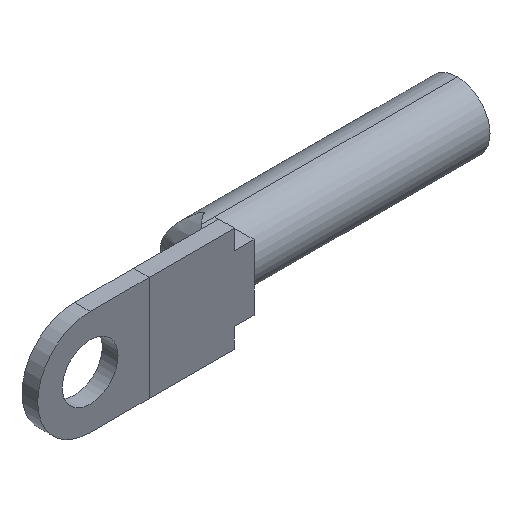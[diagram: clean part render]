
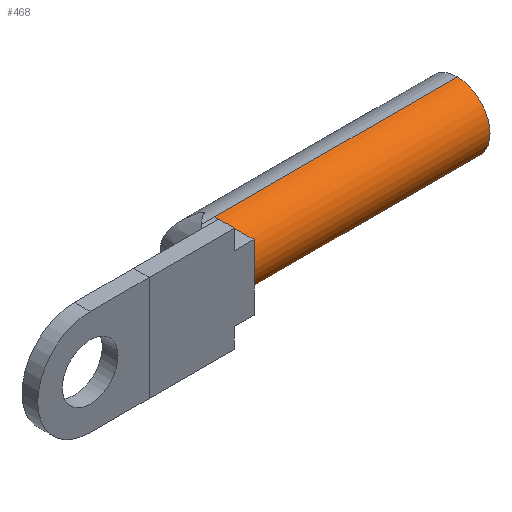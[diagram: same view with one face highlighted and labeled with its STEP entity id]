
A CAD part, isometric view. The second image highlights one B-rep face of the part: STEP entity #468.
In plain terms, the highlighted cylindrical face has radius 5 mm (diameter 10 mm), a partial arc.
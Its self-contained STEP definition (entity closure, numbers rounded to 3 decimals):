
#44 = CYLINDRICAL_SURFACE ( 'NONE', #921, 5. ) ;
#61 = CARTESIAN_POINT ( 'NONE',  ( 0., 5., -5. ) ) ;
#63 = CARTESIAN_POINT ( 'NONE',  ( 0., 5., 0. ) ) ;
#99 = CIRCLE ( 'NONE', #541, 5. ) ;
#167 = EDGE_CURVE ( 'NONE', #389, #885, #721, .T. ) ;
#206 = CARTESIAN_POINT ( 'NONE',  ( 37., 5., 5. ) ) ;
#231 = ORIENTED_EDGE ( 'NONE', *, *, #701, .T. ) ;
#263 = CIRCLE ( 'NONE', #782, 5. ) ;
#266 = DIRECTION ( 'NONE',  ( 0., 0., -1. ) ) ;
#301 = LINE ( 'NONE', #1000, #627 ) ;
#304 = FACE_OUTER_BOUND ( 'NONE', #875, .T. ) ;
#344 = CARTESIAN_POINT ( 'NONE',  ( 37., 5., 0. ) ) ;
#371 = VERTEX_POINT ( 'NONE', #61 ) ;
#389 = VERTEX_POINT ( 'NONE', #577 ) ;
#398 = ORIENTED_EDGE ( 'NONE', *, *, #167, .T. ) ;
#433 = EDGE_CURVE ( 'NONE', #389, #957, #99, .T. ) ;
#468 = ADVANCED_FACE ( 'NONE', ( #304 ), #44, .T. ) ;
#514 = VECTOR ( 'NONE', #833, 1000. ) ;
#523 = DIRECTION ( 'NONE',  ( 1., 0., 0. ) ) ;
#541 = AXIS2_PLACEMENT_3D ( 'NONE', #344, #816, #266 ) ;
#577 = CARTESIAN_POINT ( 'NONE',  ( 37., 5., 5. ) ) ;
#627 = VECTOR ( 'NONE', #844, 1000. ) ;
#701 = EDGE_CURVE ( 'NONE', #885, #371, #263, .T. ) ;
#719 = CARTESIAN_POINT ( 'NONE',  ( 37., 5., -5. ) ) ;
#721 = LINE ( 'NONE', #206, #514 ) ;
#755 = EDGE_CURVE ( 'NONE', #957, #371, #301, .T. ) ;
#782 = AXIS2_PLACEMENT_3D ( 'NONE', #63, #523, #1003 ) ;
#795 = CARTESIAN_POINT ( 'NONE',  ( 0., 5., 5. ) ) ;
#811 = DIRECTION ( 'NONE',  ( 0., 0., 1. ) ) ;
#816 = DIRECTION ( 'NONE',  ( 1., 0., 0. ) ) ;
#833 = DIRECTION ( 'NONE',  ( -1., 0., 0. ) ) ;
#844 = DIRECTION ( 'NONE',  ( -1., 0., 0. ) ) ;
#875 = EDGE_LOOP ( 'NONE', ( #972, #877, #398, #231 ) ) ;
#877 = ORIENTED_EDGE ( 'NONE', *, *, #433, .F. ) ;
#885 = VERTEX_POINT ( 'NONE', #795 ) ;
#900 = CARTESIAN_POINT ( 'NONE',  ( 37., 5., 0. ) ) ;
#921 = AXIS2_PLACEMENT_3D ( 'NONE', #900, #980, #811 ) ;
#957 = VERTEX_POINT ( 'NONE', #719 ) ;
#972 = ORIENTED_EDGE ( 'NONE', *, *, #755, .F. ) ;
#980 = DIRECTION ( 'NONE',  ( -1., 0., 0. ) ) ;
#1000 = CARTESIAN_POINT ( 'NONE',  ( 37., 5., -5. ) ) ;
#1003 = DIRECTION ( 'NONE',  ( 0., 0., 1. ) ) ;
